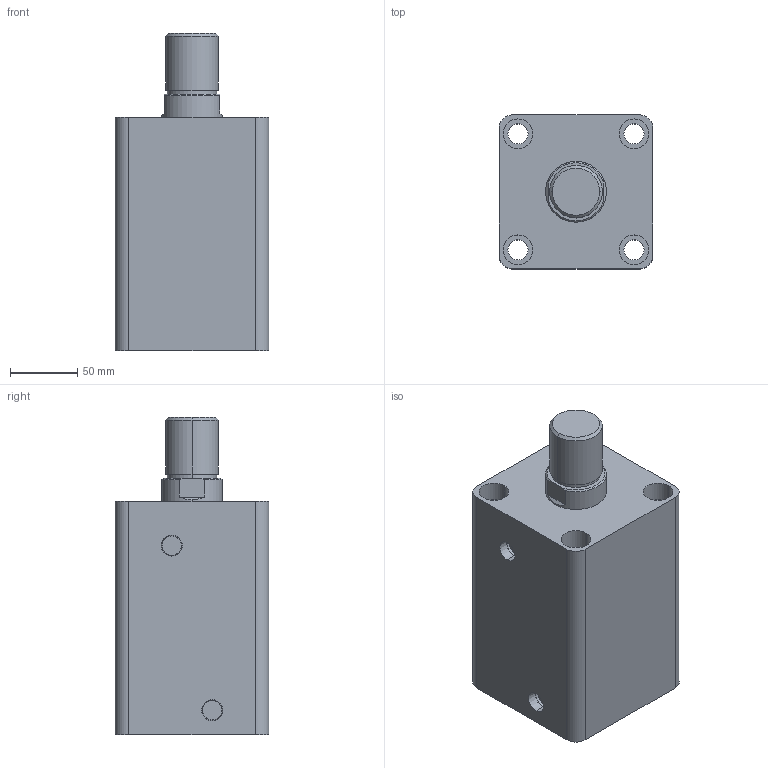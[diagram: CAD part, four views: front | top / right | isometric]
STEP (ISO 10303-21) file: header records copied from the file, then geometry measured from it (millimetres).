
FILE_DESCRIPTION (( 'STEP AP203' ), '1' );
FILE_NAME ('HTB-SD80-95W.STEP', '2019-10-07T08:42:18', ( '微软用户' ), ( '微软中国' ), 'SwSTEP 2.0', 'SolidWorks 2012', '' );
FILE_SCHEMA (( 'CONFIG_CONTROL_DESIGN' ));
Length unit declared in the file: millimetre
Products named in the file (3): HTB-SD80-95W; HTB-SD80-95W活塞杆; HTB-SD80-95掛极
Assembly tree (2 placements, depth 2):
  HTB-SD80-95W
    HTB-SD80-95掛极
    HTB-SD80-95W活塞杆
Bounding box: 114 x 114 x 235 mm (x, y, z)
Volume: 1835879.7 mm3; surface area: 223082.9 mm2
Topology: 2 solids, 2 shells, 87 faces, 190 edges, 124 vertices
Faces by surface type: cylinder 44, plane 29, cone 8, torus 6
Entity records: 2761 total; most frequent: DIRECTION 478, CARTESIAN_POINT 434, ORIENTED_EDGE 380, AXIS2_PLACEMENT_3D 204, EDGE_CURVE 190, VERTEX_POINT 124, EDGE_LOOP 112, CIRCLE 112
